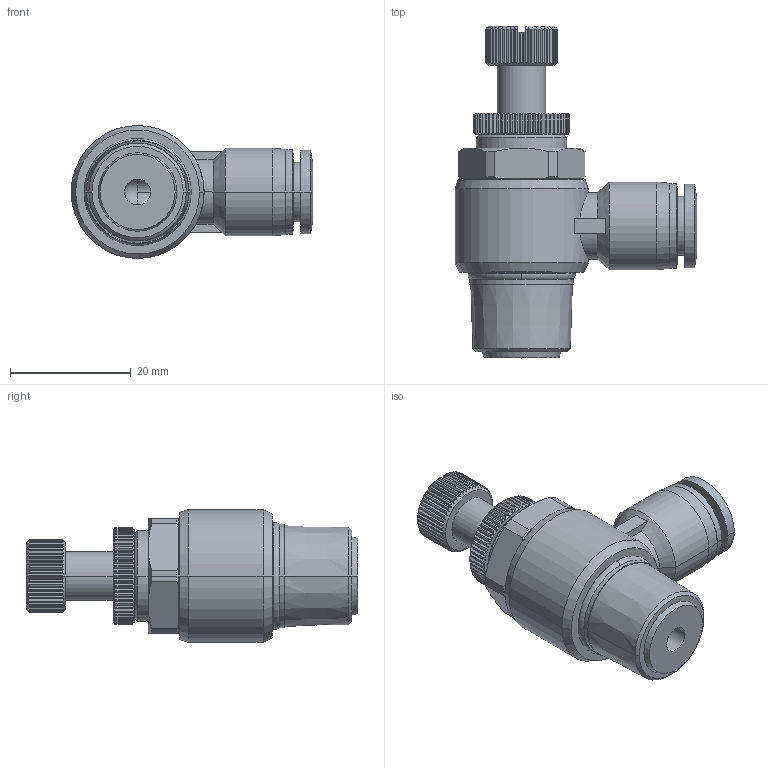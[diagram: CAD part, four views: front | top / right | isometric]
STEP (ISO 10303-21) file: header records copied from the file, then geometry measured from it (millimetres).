
FILE_DESCRIPTION (( 'STEP AP203' ), '1' );
FILE_NAME ('SCL08-03.STEP', '2020-05-12T15:36:30', ( '' ), ( '' ), 'SwSTEP 2.0', 'SolidWorks 2019', '' );
FILE_SCHEMA (( 'CONFIG_CONTROL_DESIGN' ));
Length unit declared in the file: millimetre
Products named in the file (1): SCL08-03
Bounding box: 40 x 54.9 x 22 mm (x, y, z)
Volume: 13706.2 mm3; surface area: 5729.3 mm2
Topology: 1 solids, 1 shells, 566 faces, 1377 edges, 825 vertices
Faces by surface type: plane 254, cone 161, cylinder 146, torus 4, sphere 1
Entity records: 16049 total; most frequent: CARTESIAN_POINT 3816, ORIENTED_EDGE 2752, DIRECTION 2518, EDGE_CURVE 1376, AXIS2_PLACEMENT_3D 1043, VERTEX_POINT 825, EDGE_LOOP 581, ADVANCED_FACE 566
